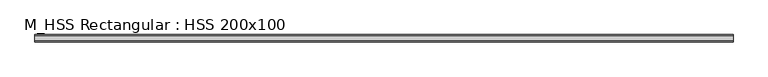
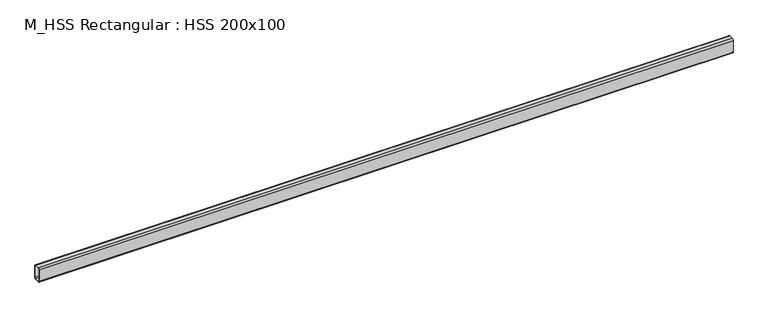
"""IFC4 building model written with IfcOpenShell, lengths in millimetres: beam geometry, M_HSS Rectangular : HSS 200x100."""

from ifc_helpers import new_model, si_unit, point, frame, frame_2d, origin, place, context, project, spatial, polyline, circle_curve, trimmed, segment, composite_curve, outline, extrude, source, transform, mapped, element, save


def m_hss_rectangular_hss_200x100_783a5962(model_context):
    return source(origin(), model_context, "Body", "SweptSolid", [
        extrude(outline(composite_curve([segment(trimmed(circle_curve(frame_2d((-30.94, 80.94)), 19.06), [point((-50.0, 80.94))], [point((-30.94, 100.0))], False, "CARTESIAN"), True, "CONTINUOUS"), segment(polyline([(-30.94, 100.0), (30.94, 100.0)]), True, "CONTINUOUS"), segment(trimmed(circle_curve(frame_2d((30.94, 80.94)), 19.06), [point((30.94, 100.0))], [point((50.0, 80.94))], False, "CARTESIAN"), True, "CONTINUOUS"), segment(polyline([(50.0, 80.94), (50.0, -80.94)]), True, "CONTINUOUS"), segment(trimmed(circle_curve(frame_2d((30.94, -80.94)), 19.06), [point((50.0, -80.94))], [point((30.94, -100.0))], False, "CARTESIAN"), True, "CONTINUOUS"), segment(polyline([(30.94, -100.0), (-30.94, -100.0)]), True, "CONTINUOUS"), segment(trimmed(circle_curve(frame_2d((-30.94, -80.94)), 19.06), [point((-30.94, -100.0))], [point((-50.0, -80.94))], False, "CARTESIAN"), True, "CONTINUOUS"), segment(polyline([(-50.0, -80.94), (-50.0, 80.94)]), True, "CONTINUOUS")], self_intersect=False), holes=[composite_curve([segment(polyline([(30.94, 90.47), (-30.94, 90.47)]), True, "CONTINUOUS"), segment(trimmed(circle_curve(frame_2d((-30.94, 80.94)), 9.53), [point((-30.94, 90.47))], [point((-40.47, 80.94))], True, "CARTESIAN"), True, "CONTINUOUS"), segment(polyline([(-40.47, 80.94), (-40.47, -80.94)]), True, "CONTINUOUS"), segment(trimmed(circle_curve(frame_2d((-30.94, -80.94)), 9.53), [point((-40.47, -80.94))], [point((-30.94, -90.47))], True, "CARTESIAN"), True, "CONTINUOUS"), segment(polyline([(-30.94, -90.47), (30.94, -90.47)]), True, "CONTINUOUS"), segment(trimmed(circle_curve(frame_2d((30.94, -80.94)), 9.53), [point((30.94, -90.47))], [point((40.47, -80.94))], True, "CARTESIAN"), True, "CONTINUOUS"), segment(polyline([(40.47, -80.94), (40.47, 80.94)]), True, "CONTINUOUS"), segment(trimmed(circle_curve(frame_2d((30.94, 80.94)), 9.53), [point((40.47, 80.94))], [point((30.94, 90.47))], True, "CARTESIAN"), True, "CONTINUOUS")], self_intersect=False)]), frame((-4624.65, 0.0, 0.0), z_axis=(1.0, 0.0, 0.0), x_axis=(0.0, 1.0, 0.0)), (0.0, 0.0, 1.0), 9249.1),
    ])


if __name__ == "__main__":
    model = new_model("IFC4")
    model_context = context("Model", 3, world=origin())
    ifc_project = project(units=[si_unit("LENGTHUNIT", "METRE", prefix="MILLI")], contexts=[model_context])
    site = spatial("IfcSite", under=ifc_project)
    building = spatial("IfcBuilding", under=site)
    placement = place(None, origin())
    m_hss_rectangular_hss_200x100_shape = m_hss_rectangular_hss_200x100_783a5962(model_context)
    element("IfcBeam", 1, ObjectType="M_HSS Rectangular : HSS 200x100", at=placement, inside=building, context=model_context, shape_type="MappedRepresentation", body=[
        mapped(m_hss_rectangular_hss_200x100_shape, transform((0.0, 0.0, 0.0), x_axis=(1.0, 0.0, 0.0), y_axis=(0.0, 1.0, 0.0), z_axis=(0.0, 0.0, 1.0))),
    ])
    save(model, "model.ifc")
